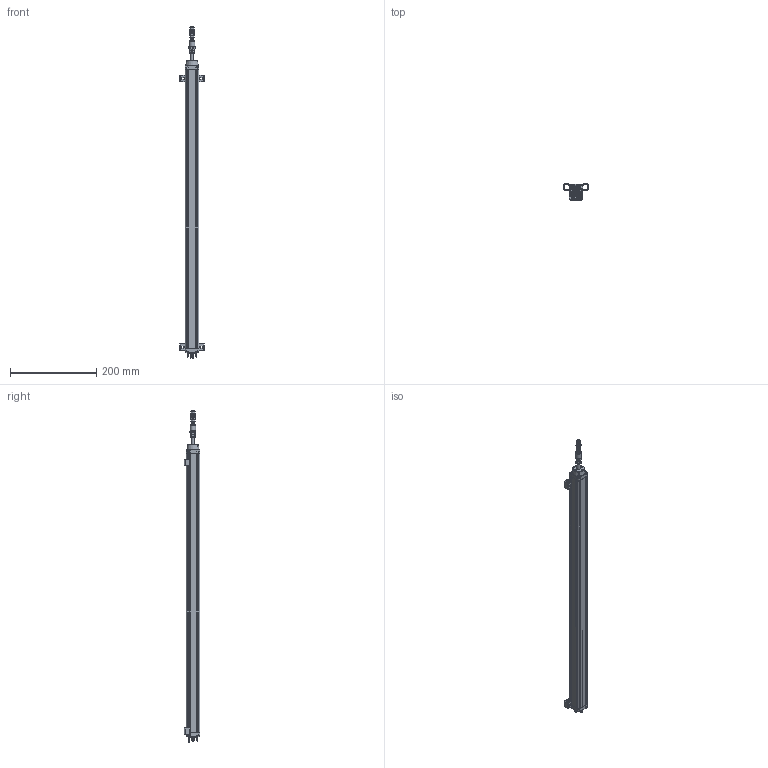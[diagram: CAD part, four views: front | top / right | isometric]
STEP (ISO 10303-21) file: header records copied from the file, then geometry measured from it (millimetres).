
FILE_DESCRIPTION(/* description */ (''),/* implementation_level */ '2;1');
FILE_NAME(/* name */ 'KTC1-600MM.stp',/* time_stamp */ '2021-02-21T11:08:05+08:00',/* author */ (''),/* organization */ (''),/* preprocessor_version */ 'ST-DEVELOPER v16',/* originating_system */ 'SIEMENS PLM Software NX 10.0',/* authorisation */ '');
FILE_SCHEMA (('AUTOMOTIVE_DESIGN { 1 0 10303 214 3 1 1 1 }'));
Products named in the file (1): Admi0E445BB8sv7w
Bounding box: 56 x 36.29 x 771.13 mm (x, y, z)
Volume: 223619.5 mm3; surface area: 244258.5 mm2
Topology: 31 solids, 31 shells, 1169 faces, 3186 edges, 2074 vertices
Faces by surface type: plane 639, cylinder 398, torus 77, sphere 20, cone 18, bspline 17
Full cylindrical faces by diameter (mm): 2.5 x6, 2.525 x2, 3 x4, 3.2 x1, 3.5 x4, 3.7 x2, 4 x1, 4.9 x25, 5.9 x4, 6 x3, 7 x1, 7.986 x1, 8 x2, 9.986 x1, 10 x2, 11 x1, 11.4 x1, 12 x1, 13 x2, 13.5 x2, 14.973 x1, 16.471 x1
Entity records: 55987 total; most frequent: CARTESIAN_POINT 27323, ORIENTED_EDGE 6002, DIRECTION 5683, EDGE_CURVE 3001, VERTEX_POINT 1999, AXIS2_PLACEMENT_3D 1908, LINE 1867, VECTOR 1867
